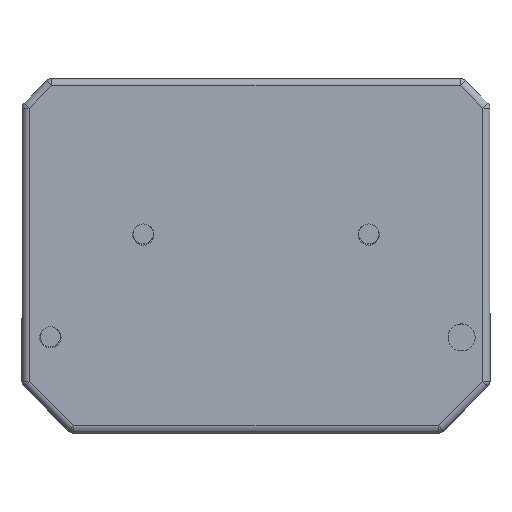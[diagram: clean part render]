
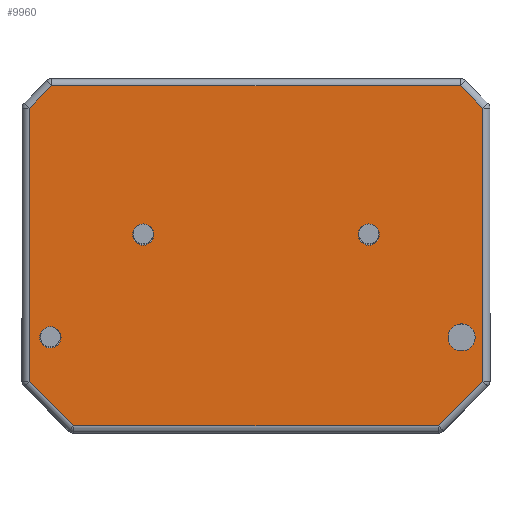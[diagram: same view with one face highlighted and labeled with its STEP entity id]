
A CAD part, top view. The second image highlights one B-rep face of the part: STEP entity #9960.
In plain terms, the highlighted planar face has unit normal (0, 0, 1).
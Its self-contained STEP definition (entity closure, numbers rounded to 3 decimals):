
#82 = EDGE_LOOP ( 'NONE', ( #5261, #5637, #8768, #10020, #9355, #9101, #8181, #3824 ) ) ;
#102 = CARTESIAN_POINT ( 'NONE',  ( -25.25, -23.931, 67. ) ) ;
#290 = AXIS2_PLACEMENT_3D ( 'NONE', #10154, #4772, #11064 ) ;
#349 = CARTESIAN_POINT ( 'NONE',  ( -32.112, 20.894, 67. ) ) ;
#373 = ORIENTED_EDGE ( 'NONE', *, *, #2676, .F. ) ;
#416 = CIRCLE ( 'NONE', #4363, 1.5 ) ;
#553 = VERTEX_POINT ( 'NONE', #6466 ) ;
#669 = FACE_OUTER_BOUND ( 'NONE', #82, .T. ) ;
#718 = CARTESIAN_POINT ( 'NONE',  ( -31.819, -17.776, 67. ) ) ;
#835 = CIRCLE ( 'NONE', #9202, 1.5 ) ;
#838 = EDGE_LOOP ( 'NONE', ( #7949, #3375 ) ) ;
#954 = CIRCLE ( 'NONE', #7782, 1.5 ) ;
#1009 = DIRECTION ( 'NONE',  ( 0.707, -0.707, 0. ) ) ;
#1144 = EDGE_LOOP ( 'NONE', ( #5976, #4905 ) ) ;
#1161 = EDGE_CURVE ( 'NONE', #4585, #553, #4510, .T. ) ;
#1182 = CIRCLE ( 'NONE', #290, 1.9 ) ;
#1249 = CARTESIAN_POINT ( 'NONE',  ( 32.474, -17.069, 67. ) ) ;
#1266 = CARTESIAN_POINT ( 'NONE',  ( -15.719, 3.362, 67. ) ) ;
#1484 = EDGE_CURVE ( 'NONE', #6089, #4585, #10411, .T. ) ;
#1488 = VERTEX_POINT ( 'NONE', #5750 ) ;
#1510 = DIRECTION ( 'NONE',  ( 0., 1., 0. ) ) ;
#1609 = PLANE ( 'NONE',  #1721 ) ;
#1682 = EDGE_CURVE ( 'NONE', #9544, #3045, #8153, .T. ) ;
#1710 = AXIS2_PLACEMENT_3D ( 'NONE', #8700, #3307, #9600 ) ;
#1721 = AXIS2_PLACEMENT_3D ( 'NONE', #4356, #10637, #5269 ) ;
#1747 = EDGE_CURVE ( 'NONE', #6708, #1488, #416, .T. ) ;
#1864 = ORIENTED_EDGE ( 'NONE', *, *, #6812, .F. ) ;
#1871 = EDGE_CURVE ( 'NONE', #7890, #11141, #6471, .T. ) ;
#1907 = CIRCLE ( 'NONE', #4148, 1.5 ) ;
#1929 = EDGE_CURVE ( 'NONE', #11141, #7890, #835, .T. ) ;
#2127 = CARTESIAN_POINT ( 'NONE',  ( 14.581, 3.362, 67. ) ) ;
#2148 = DIRECTION ( 'NONE',  ( 1., 0., 0. ) ) ;
#2180 = VECTOR ( 'NONE', #1510, 1000. ) ;
#2352 = EDGE_CURVE ( 'NONE', #5995, #8750, #10652, .T. ) ;
#2586 = CARTESIAN_POINT ( 'NONE',  ( -29.057, 24.362, 67. ) ) ;
#2633 = CARTESIAN_POINT ( 'NONE',  ( -15.719, 3.362, 67. ) ) ;
#2676 = EDGE_CURVE ( 'NONE', #10831, #7551, #954, .T. ) ;
#2744 = CARTESIAN_POINT ( 'NONE',  ( -28.643, 24.362, 67. ) ) ;
#2751 = DIRECTION ( 'NONE',  ( 0., 0., 1. ) ) ;
#3027 = DIRECTION ( 'NONE',  ( -1., 0., 0. ) ) ;
#3045 = VERTEX_POINT ( 'NONE', #9678 ) ;
#3059 = FACE_BOUND ( 'NONE', #1144, .T. ) ;
#3170 = DIRECTION ( 'NONE',  ( 0., 0., 1. ) ) ;
#3246 = CARTESIAN_POINT ( 'NONE',  ( 16.081, 3.362, 67. ) ) ;
#3299 = EDGE_CURVE ( 'NONE', #1488, #6708, #1907, .T. ) ;
#3307 = DIRECTION ( 'NONE',  ( 0., 0., 1. ) ) ;
#3315 = ORIENTED_EDGE ( 'NONE', *, *, #7026, .F. ) ;
#3375 = ORIENTED_EDGE ( 'NONE', *, *, #1929, .F. ) ;
#3500 = EDGE_CURVE ( 'NONE', #8750, #9544, #6563, .T. ) ;
#3622 = CARTESIAN_POINT ( 'NONE',  ( 17.581, 3.362, 67. ) ) ;
#3643 = VECTOR ( 'NONE', #9375, 1000. ) ;
#3683 = VERTEX_POINT ( 'NONE', #9535 ) ;
#3714 = EDGE_CURVE ( 'NONE', #3045, #4310, #4578, .T. ) ;
#3824 = ORIENTED_EDGE ( 'NONE', *, *, #2352, .T. ) ;
#4148 = AXIS2_PLACEMENT_3D ( 'NONE', #1266, #7550, #2148 ) ;
#4157 = CARTESIAN_POINT ( 'NONE',  ( 32.181, 21.187, 67. ) ) ;
#4163 = DIRECTION ( 'NONE',  ( 1., 0., 0. ) ) ;
#4270 = LINE ( 'NONE', #10703, #9033 ) ;
#4310 = VERTEX_POINT ( 'NONE', #4157 ) ;
#4356 = CARTESIAN_POINT ( 'NONE',  ( 0.181, -23.438, 67. ) ) ;
#4363 = AXIS2_PLACEMENT_3D ( 'NONE', #2633, #10768, #8139 ) ;
#4420 = DIRECTION ( 'NONE',  ( -0.707, 0.707, 0. ) ) ;
#4510 = LINE ( 'NONE', #349, #8731 ) ;
#4578 = LINE ( 'NONE', #11384, #2180 ) ;
#4585 = VERTEX_POINT ( 'NONE', #2744 ) ;
#4702 = DIRECTION ( 'NONE',  ( 1., 0., 0. ) ) ;
#4725 = CARTESIAN_POINT ( 'NONE',  ( -28.819, -11.138, 67. ) ) ;
#4772 = DIRECTION ( 'NONE',  ( 0., 0., 1. ) ) ;
#4779 = CARTESIAN_POINT ( 'NONE',  ( -27.319, -11.138, 67. ) ) ;
#4905 = ORIENTED_EDGE ( 'NONE', *, *, #1747, .F. ) ;
#5007 = EDGE_LOOP ( 'NONE', ( #1864, #373 ) ) ;
#5102 = DIRECTION ( 'NONE',  ( 1., 0., 0. ) ) ;
#5261 = ORIENTED_EDGE ( 'NONE', *, *, #3500, .T. ) ;
#5269 = DIRECTION ( 'NONE',  ( 1., 0., 0. ) ) ;
#5455 = FACE_BOUND ( 'NONE', #838, .T. ) ;
#5637 = ORIENTED_EDGE ( 'NONE', *, *, #1682, .T. ) ;
#5641 = DIRECTION ( 'NONE',  ( 1., 0., 0. ) ) ;
#5745 = FACE_BOUND ( 'NONE', #10416, .T. ) ;
#5750 = CARTESIAN_POINT ( 'NONE',  ( -14.219, 3.362, 67. ) ) ;
#5933 = DIRECTION ( 'NONE',  ( 0., 0., 1. ) ) ;
#5976 = ORIENTED_EDGE ( 'NONE', *, *, #3299, .F. ) ;
#5995 = VERTEX_POINT ( 'NONE', #11628 ) ;
#6089 = VERTEX_POINT ( 'NONE', #8163 ) ;
#6114 = DIRECTION ( 'NONE',  ( 0., -1., 0. ) ) ;
#6408 = EDGE_CURVE ( 'NONE', #4310, #6089, #4270, .T. ) ;
#6466 = CARTESIAN_POINT ( 'NONE',  ( -31.819, 21.187, 67. ) ) ;
#6471 = CIRCLE ( 'NONE', #6796, 1.5 ) ;
#6563 = LINE ( 'NONE', #10083, #8380 ) ;
#6701 = VECTOR ( 'NONE', #6114, 1000. ) ;
#6708 = VERTEX_POINT ( 'NONE', #8508 ) ;
#6796 = AXIS2_PLACEMENT_3D ( 'NONE', #3246, #5933, #4163 ) ;
#6812 = EDGE_CURVE ( 'NONE', #7551, #10831, #10325, .T. ) ;
#7026 = EDGE_CURVE ( 'NONE', #3683, #7807, #1182, .T. ) ;
#7087 = CARTESIAN_POINT ( 'NONE',  ( -30.319, -11.138, 67. ) ) ;
#7550 = DIRECTION ( 'NONE',  ( 0., 0., 1. ) ) ;
#7551 = VERTEX_POINT ( 'NONE', #4779 ) ;
#7782 = AXIS2_PLACEMENT_3D ( 'NONE', #4725, #11022, #5641 ) ;
#7807 = VERTEX_POINT ( 'NONE', #9746 ) ;
#7890 = VERTEX_POINT ( 'NONE', #3622 ) ;
#7904 = EDGE_CURVE ( 'NONE', #7807, #3683, #8763, .T. ) ;
#7949 = ORIENTED_EDGE ( 'NONE', *, *, #1871, .F. ) ;
#8018 = VECTOR ( 'NONE', #3027, 1000. ) ;
#8117 = FACE_BOUND ( 'NONE', #5007, .T. ) ;
#8139 = DIRECTION ( 'NONE',  ( 1., 0., 0. ) ) ;
#8147 = CARTESIAN_POINT ( 'NONE',  ( 29.181, -11.138, 67. ) ) ;
#8153 = LINE ( 'NONE', #1249, #3643 ) ;
#8163 = CARTESIAN_POINT ( 'NONE',  ( 29.005, 24.362, 67. ) ) ;
#8181 = ORIENTED_EDGE ( 'NONE', *, *, #11436, .T. ) ;
#8266 = VECTOR ( 'NONE', #1009, 1000. ) ;
#8380 = VECTOR ( 'NONE', #4702, 1000. ) ;
#8508 = CARTESIAN_POINT ( 'NONE',  ( -17.219, 3.362, 67. ) ) ;
#8700 = CARTESIAN_POINT ( 'NONE',  ( -28.819, -11.138, 67. ) ) ;
#8731 = VECTOR ( 'NONE', #10206, 1000. ) ;
#8750 = VERTEX_POINT ( 'NONE', #9563 ) ;
#8763 = CIRCLE ( 'NONE', #10677, 1.9 ) ;
#8768 = ORIENTED_EDGE ( 'NONE', *, *, #3714, .T. ) ;
#9033 = VECTOR ( 'NONE', #4420, 1000. ) ;
#9041 = DIRECTION ( 'NONE',  ( 1., 0., 0. ) ) ;
#9082 = LINE ( 'NONE', #718, #6701 ) ;
#9101 = ORIENTED_EDGE ( 'NONE', *, *, #1161, .T. ) ;
#9202 = AXIS2_PLACEMENT_3D ( 'NONE', #11275, #3170, #5102 ) ;
#9355 = ORIENTED_EDGE ( 'NONE', *, *, #1484, .T. ) ;
#9375 = DIRECTION ( 'NONE',  ( 0.707, 0.707, 0. ) ) ;
#9535 = CARTESIAN_POINT ( 'NONE',  ( 31.081, -11.138, 67. ) ) ;
#9544 = VERTEX_POINT ( 'NONE', #10808 ) ;
#9563 = CARTESIAN_POINT ( 'NONE',  ( -25.543, -23.638, 67. ) ) ;
#9600 = DIRECTION ( 'NONE',  ( 1., 0., 0. ) ) ;
#9678 = CARTESIAN_POINT ( 'NONE',  ( 32.181, -17.362, 67. ) ) ;
#9746 = CARTESIAN_POINT ( 'NONE',  ( 27.281, -11.138, 67. ) ) ;
#9960 = ADVANCED_FACE ( 'NONE', ( #8117, #3059, #5455, #5745, #669 ), #1609, .T. ) ;
#10020 = ORIENTED_EDGE ( 'NONE', *, *, #6408, .T. ) ;
#10083 = CARTESIAN_POINT ( 'NONE',  ( 26.32, -23.638, 67. ) ) ;
#10154 = CARTESIAN_POINT ( 'NONE',  ( 29.181, -11.138, 67. ) ) ;
#10206 = DIRECTION ( 'NONE',  ( -0.707, -0.707, 0. ) ) ;
#10325 = CIRCLE ( 'NONE', #1710, 1.5 ) ;
#10411 = LINE ( 'NONE', #2586, #8018 ) ;
#10416 = EDGE_LOOP ( 'NONE', ( #3315, #10999 ) ) ;
#10637 = DIRECTION ( 'NONE',  ( 0., 0., 1. ) ) ;
#10652 = LINE ( 'NONE', #102, #8266 ) ;
#10677 = AXIS2_PLACEMENT_3D ( 'NONE', #8147, #2751, #9041 ) ;
#10703 = CARTESIAN_POINT ( 'NONE',  ( 28.713, 24.655, 67. ) ) ;
#10768 = DIRECTION ( 'NONE',  ( 0., 0., 1. ) ) ;
#10808 = CARTESIAN_POINT ( 'NONE',  ( 25.905, -23.638, 67. ) ) ;
#10831 = VERTEX_POINT ( 'NONE', #7087 ) ;
#10999 = ORIENTED_EDGE ( 'NONE', *, *, #7904, .F. ) ;
#11022 = DIRECTION ( 'NONE',  ( 0., 0., 1. ) ) ;
#11064 = DIRECTION ( 'NONE',  ( 1., 0., 0. ) ) ;
#11141 = VERTEX_POINT ( 'NONE', #2127 ) ;
#11275 = CARTESIAN_POINT ( 'NONE',  ( 16.081, 3.362, 67. ) ) ;
#11384 = CARTESIAN_POINT ( 'NONE',  ( 32.181, 21.601, 67. ) ) ;
#11436 = EDGE_CURVE ( 'NONE', #553, #5995, #9082, .T. ) ;
#11628 = CARTESIAN_POINT ( 'NONE',  ( -31.819, -17.362, 67. ) ) ;
